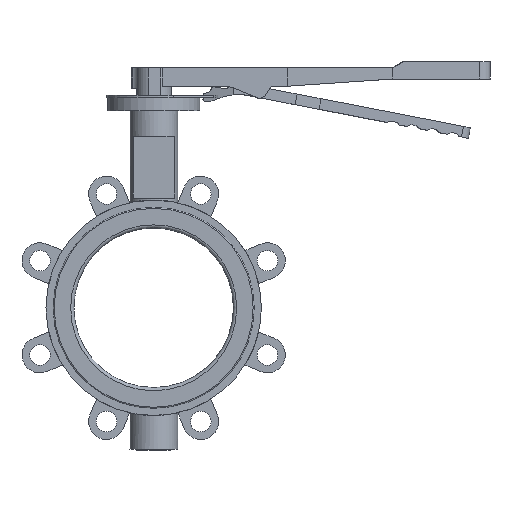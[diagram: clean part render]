
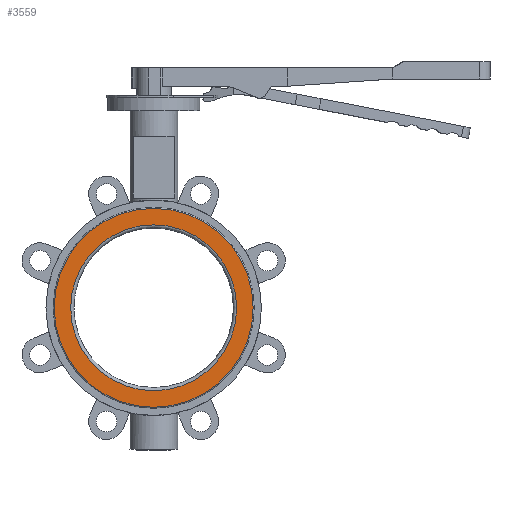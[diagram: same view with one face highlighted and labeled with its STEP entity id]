
A CAD part, front view. The second image highlights one B-rep face of the part: STEP entity #3559.
In plain terms, the highlighted planar face has unit normal (0, -1, 0) as drawn and (1, 0, 0) by its records, which use the part's own axes.
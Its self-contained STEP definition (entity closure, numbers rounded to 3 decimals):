
#1158 = EDGE_CURVE ( 'NONE', #6876, #6876, #2618, .T. ) ;
#1313 = AXIS2_PLACEMENT_3D ( 'NONE', #7850, #6976, #8512 ) ;
#1407 = FACE_BOUND ( 'NONE', #6176, .T. ) ;
#1652 = DIRECTION ( 'NONE',  ( 0., 0., 1. ) ) ;
#1684 = CARTESIAN_POINT ( 'NONE',  ( 30., 0., 0. ) ) ;
#2083 = AXIS2_PLACEMENT_3D ( 'NONE', #1684, #4079, #1652 ) ;
#2618 = CIRCLE ( 'NONE', #7566, 80.889 ) ;
#2672 = DIRECTION ( 'NONE',  ( -1., 0., 0. ) ) ;
#3463 = ORIENTED_EDGE ( 'NONE', *, *, #1158, .T. ) ;
#3559 = ADVANCED_FACE ( 'NONE', ( #5540, #1407 ), #4719, .F. ) ;
#3739 = CARTESIAN_POINT ( 'NONE',  ( 30., 0., 97. ) ) ;
#4079 = DIRECTION ( 'NONE',  ( -1., 0., 0. ) ) ;
#4145 = DIRECTION ( 'NONE',  ( 0., 0., 1. ) ) ;
#4353 = CARTESIAN_POINT ( 'NONE',  ( 30., 0., 0. ) ) ;
#4524 = CARTESIAN_POINT ( 'NONE',  ( 30., 0., 80.889 ) ) ;
#4719 = PLANE ( 'NONE',  #1313 ) ;
#5540 = FACE_OUTER_BOUND ( 'NONE', #8790, .T. ) ;
#5565 = VERTEX_POINT ( 'NONE', #3739 ) ;
#6176 = EDGE_LOOP ( 'NONE', ( #3463 ) ) ;
#6876 = VERTEX_POINT ( 'NONE', #4524 ) ;
#6976 = DIRECTION ( 'NONE',  ( -1., 0., 0. ) ) ;
#7299 = CIRCLE ( 'NONE', #2083, 97. ) ;
#7511 = EDGE_CURVE ( 'NONE', #5565, #5565, #7299, .T. ) ;
#7566 = AXIS2_PLACEMENT_3D ( 'NONE', #4353, #2672, #4145 ) ;
#7850 = CARTESIAN_POINT ( 'NONE',  ( 30., 97., 0. ) ) ;
#7975 = ORIENTED_EDGE ( 'NONE', *, *, #7511, .F. ) ;
#8512 = DIRECTION ( 'NONE',  ( 0., 0., 1. ) ) ;
#8790 = EDGE_LOOP ( 'NONE', ( #7975 ) ) ;
